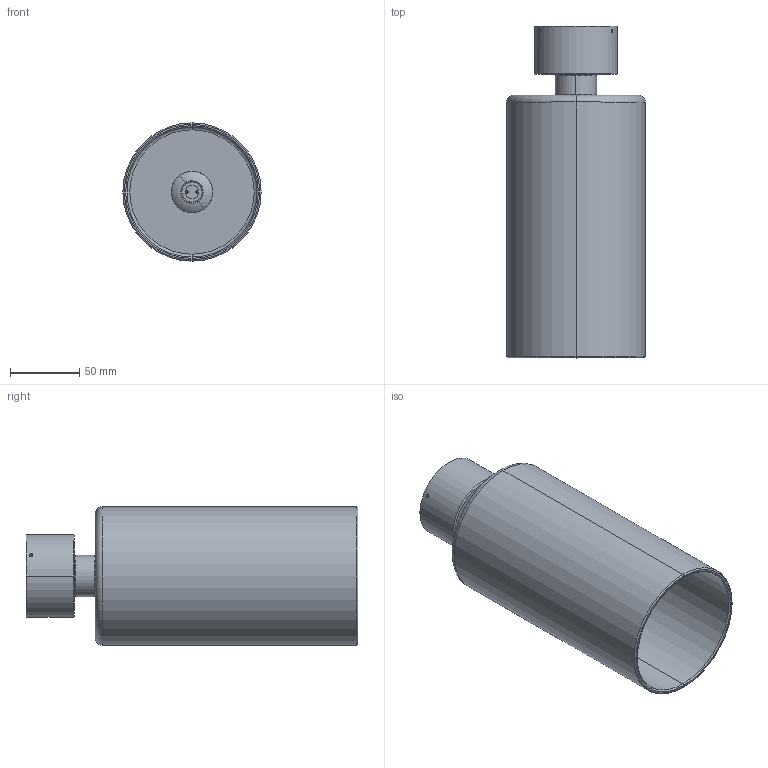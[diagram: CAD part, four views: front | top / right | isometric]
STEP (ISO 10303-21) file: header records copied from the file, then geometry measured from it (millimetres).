
FILE_DESCRIPTION (( 'STEP AP203' ), '1' );
FILE_NAME ('PLSPILXMXXCRINT-PER 3D.STEP', '2024-05-27T16:49:27', ( '' ), ( '' ), 'SwSTEP 2.0', 'SolidWorks 2024', '' );
FILE_SCHEMA (( 'CONFIG_CONTROL_DESIGN' ));
Length unit declared in the file: millimetre
Products named in the file (7): WSCM2A0110-0744-00; PLSPILXMXXCRINT-PER 3D; VSPILLRAYAM190CS; TORNITURA FISSAGGIO VETRO; WSASS-000000049-44; WSCM2A0105-0700-00_WSCM2A0105-0744-00; WSMCTFA10C015-0141
Assembly tree (6 placements, depth 3):
  PLSPILXMXXCRINT-PER 3D
    WSASS-000000049-44
      WSCM2A0105-0700-00_WSCM2A0105-0744-00
    WSMCTFA10C015-0141
    WSCM2A0110-0744-00
    TORNITURA FISSAGGIO VETRO
    VSPILLRAYAM190CS
Bounding box: 100 x 240 x 100 mm (x, y, z)
Volume: 227829.4 mm3; surface area: 154602.1 mm2
Topology: 5 solids, 5 shells, 109 faces, 228 edges, 133 vertices
Faces by surface type: cylinder 42, cone 26, torus 26, plane 15
Entity records: 3933 total; most frequent: CARTESIAN_POINT 764, DIRECTION 590, ORIENTED_EDGE 452, AXIS2_PLACEMENT_3D 261, EDGE_CURVE 226, CIRCLE 142, VERTEX_POINT 133, EDGE_LOOP 133
